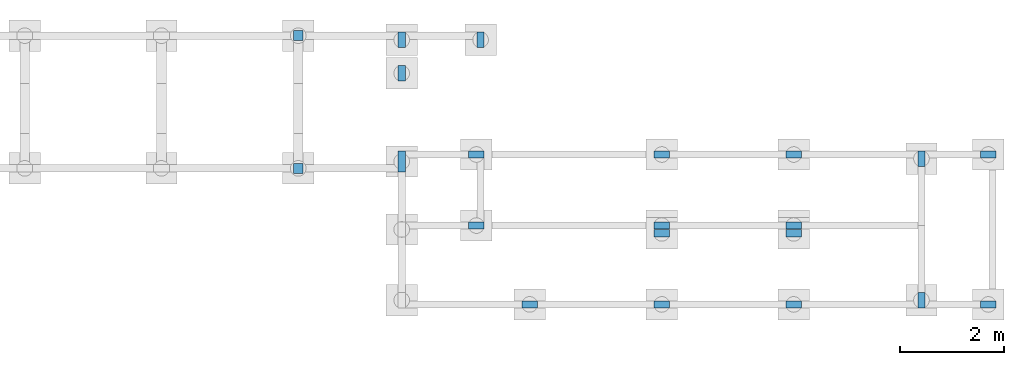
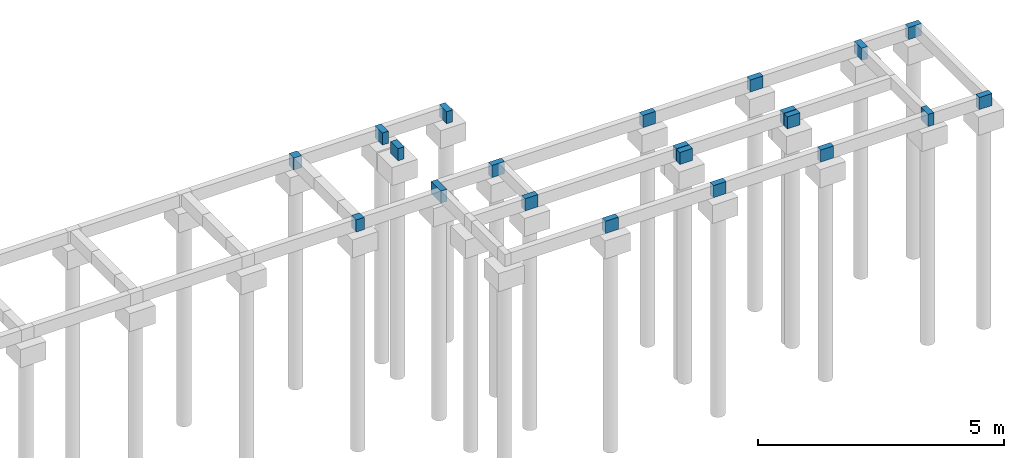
# One storey, part 3 of 6: 21 columns.
"""IFC4 building model written with IfcOpenShell, lengths in centimetres."""

from ifc_helpers import new_model, si_unit, derived_unit, frame, origin_with_axes, origin_2d_with_axis, place, context, project, spatial, rectangle, extrude, material, element, save


model = new_model("IFC4")

# Units and contexts
model_context = context("Model", 3, precision=1e-05, world=origin_with_axes(), identifier="Body")
ifc_project = project(units=[si_unit("LENGTHUNIT", "METRE", prefix="CENTI"), si_unit("VOLUMEUNIT", "CUBIC_METRE"), si_unit("AREAUNIT", "SQUARE_METRE"), si_unit("POWERUNIT", "WATT"), si_unit("LUMINOUSFLUXUNIT", "LUMEN"), si_unit("ELECTRICCURRENTUNIT", "AMPERE"), si_unit("PRESSUREUNIT", "PASCAL", prefix="KILO"), si_unit("MASSUNIT", "GRAM", prefix="KILO"), si_unit("PLANEANGLEUNIT", "RADIAN"), derived_unit("VOLUMETRICFLOWRATEUNIT", [(si_unit("LENGTHUNIT", "METRE"), 3), (si_unit("TIMEUNIT", "SECOND"), -1)])], contexts=[model_context])

# Site, building, storey
site_placement = place(None, origin_with_axes())
site = spatial("IfcSite", under=ifc_project, at=site_placement)
building_placement = place(site_placement, frame((0.0, 0.0, -170.0)))
building = spatial("IfcBuilding", under=site, at=building_placement)
storey_placement = place(building_placement, origin_with_axes())
storey = spatial("IfcBuildingStorey", under=building, at=storey_placement, Name="Baldrame", CompositionType="ELEMENT", Elevation=-170.0)

# Columns
ifc_material = material(Name="Concreto")
for number, where, z_axis, x_axis, name in (
    (1, (5065.12, -129.5, 0.0), (0.0, 0.0, 1.0), (1.0, 0.0, 0.0), "P101"),
    (2, (5318.12, -129.5, 0.0), (0.0, 0.0, 1.0), (1.0, 0.0, 0.0), "P102"),
    (3, (5570.62, -129.5, 0.0), (0.0, 0.0, 1.0), (1.0, 0.0, 0.0), "P103"),
):
    element("IfcColumn", number, at=place(storey_placement, frame(where, z_axis=z_axis, x_axis=x_axis)), inside=storey, material=ifc_material, Name=name, context=model_context, shape_type="SolidModel", body=[
        extrude(rectangle(XDim=14.0, YDim=30.0, at=origin_2d_with_axis()), frame((0.0, 0.0, -30.0), z_axis=(0.0, 0.0, 1.0), x_axis=(0.0, -1.0, 0.0)), (0.0, 0.0, 1.0), 30.0),
    ])
column_1_placement = place(storey_placement, frame((5815.12, -121.5, 0.0), z_axis=(0.0, 0.0, 1.0), x_axis=(1.0, 0.0, 0.0)))
element("IfcColumn", 4, at=column_1_placement, inside=storey, material=ifc_material, Name="P104", context=model_context, shape_type="SolidModel", body=[
    extrude(rectangle(XDim=14.0, YDim=30.0, at=origin_2d_with_axis()), frame((0.0, 0.0, -30.0), z_axis=(0.0, 0.0, 1.0), x_axis=(-1.0, 0.0, 0.0)), (0.0, 0.0, 1.0), 30.0),
])
column_2_placement = place(storey_placement, frame((5943.12, -129.5, 0.0), z_axis=(0.0, 0.0, 1.0), x_axis=(1.0, 0.0, 0.0)))
element("IfcColumn", 5, at=column_2_placement, inside=storey, material=ifc_material, Name="P105", context=model_context, shape_type="SolidModel", body=[
    extrude(rectangle(XDim=14.0, YDim=30.0, at=origin_2d_with_axis()), frame((0.0, 0.0, -30.0), z_axis=(0.0, 0.0, 1.0), x_axis=(0.0, -1.0, 0.0)), (0.0, 0.0, 1.0), 30.0),
])
column_3_placement = place(storey_placement, frame((4622.12, 385.0, 0.0), z_axis=(0.0, 0.0, 1.0), x_axis=(1.0, 0.0, 0.0)))
element("IfcColumn", 6, at=column_3_placement, inside=storey, material=ifc_material, Name="P21", context=model_context, shape_type="SolidModel", body=[
    extrude(rectangle(XDim=19.0, YDim=19.0, at=origin_2d_with_axis()), frame((0.0, 0.0, -30.0), z_axis=(0.0, 0.0, 1.0), x_axis=(0.0, -1.0, 0.0)), (0.0, 0.0, 1.0), 30.0),
])
column_4_placement = place(storey_placement, frame((4820.12, 377.0, 0.0), z_axis=(0.0, 0.0, 1.0), x_axis=(1.0, 0.0, 0.0)))
element("IfcColumn", 7, at=column_4_placement, inside=storey, material=ifc_material, Name="P22", context=model_context, shape_type="SolidModel", body=[
    extrude(rectangle(XDim=14.0, YDim=30.0, at=origin_2d_with_axis()), frame((0.0, 0.0, -30.0), z_axis=(0.0, 0.0, 1.0), x_axis=(1.0, 0.0, 0.0)), (0.0, 0.0, 1.0), 30.0),
])
column_5_placement = place(storey_placement, frame((4971.12, 377.0, 0.0), z_axis=(0.0, 0.0, 1.0), x_axis=(1.0, 0.0, 0.0)))
element("IfcColumn", 8, at=column_5_placement, inside=storey, material=ifc_material, Name="P23", context=model_context, shape_type="SolidModel", body=[
    extrude(rectangle(XDim=14.0, YDim=30.0, at=origin_2d_with_axis()), frame((0.0, 0.0, -30.0), z_axis=(0.0, 0.0, 1.0), x_axis=(-1.0, 0.0, 0.0)), (0.0, 0.0, 1.0), 30.0),
])
column_6_placement = place(storey_placement, frame((4820.12, 313.0, 0.0), z_axis=(0.0, 0.0, 1.0), x_axis=(1.0, 0.0, 0.0)))
element("IfcColumn", 9, at=column_6_placement, inside=storey, material=ifc_material, Name="P38", context=model_context, shape_type="SolidModel", body=[
    extrude(rectangle(XDim=14.0, YDim=30.0, at=origin_2d_with_axis()), frame((0.0, 0.0, -30.0), z_axis=(0.0, 0.0, 1.0), x_axis=(1.0, 0.0, 0.0)), (0.0, 0.0, 1.0), 30.0),
])
column_7_placement = place(storey_placement, frame((4622.12, 131.0, 0.0), z_axis=(0.0, 0.0, 1.0), x_axis=(1.0, 0.0, 0.0)))
element("IfcColumn", 10, at=column_7_placement, inside=storey, material=ifc_material, Name="P71", context=model_context, shape_type="SolidModel", body=[
    extrude(rectangle(XDim=19.0, YDim=19.0, at=origin_2d_with_axis()), frame((0.0, 0.0, -30.0), z_axis=(0.0, 0.0, 1.0), x_axis=(0.0, -1.0, 0.0)), (0.0, 0.0, 1.0), 30.0),
])
column_8_placement = place(storey_placement, frame((4820.12, 144.0, 0.0), z_axis=(0.0, 0.0, 1.0), x_axis=(1.0, 0.0, 0.0)))
element("IfcColumn", 11, at=column_8_placement, inside=storey, material=ifc_material, Name="P72", context=model_context, shape_type="SolidModel", body=[
    extrude(rectangle(XDim=14.0, YDim=40.0, at=origin_2d_with_axis()), frame((0.0, 0.0, -30.0), z_axis=(0.0, 0.0, 1.0), x_axis=(1.0, 0.0, 0.0)), (0.0, 0.0, 1.0), 30.0),
])
for number, where, z_axis, x_axis, name in (
    (12, (4963.12, 157.5, 0.0), (0.0, 0.0, 1.0), (1.0, 0.0, 0.0), "P73"),
    (13, (5318.12, 157.5, 0.0), (0.0, 0.0, 1.0), (1.0, 0.0, 0.0), "P74"),
    (14, (5570.62, 157.5, 0.0), (0.0, 0.0, 1.0), (1.0, 0.0, 0.0), "P75"),
):
    element("IfcColumn", number, at=place(storey_placement, frame(where, z_axis=z_axis, x_axis=x_axis)), inside=storey, material=ifc_material, Name=name, context=model_context, shape_type="SolidModel", body=[
        extrude(rectangle(XDim=14.0, YDim=30.0, at=origin_2d_with_axis()), frame((0.0, 0.0, -30.0), z_axis=(0.0, 0.0, 1.0), x_axis=(0.0, -1.0, 0.0)), (0.0, 0.0, 1.0), 30.0),
    ])
column_9_placement = place(storey_placement, frame((5815.12, 149.5, 0.0), z_axis=(0.0, 0.0, 1.0), x_axis=(1.0, 0.0, 0.0)))
element("IfcColumn", 15, at=column_9_placement, inside=storey, material=ifc_material, Name="P76", context=model_context, shape_type="SolidModel", body=[
    extrude(rectangle(XDim=14.0, YDim=30.0, at=origin_2d_with_axis()), frame((0.0, 0.0, -30.0), z_axis=(0.0, 0.0, 1.0), x_axis=(1.0, 0.0, 0.0)), (0.0, 0.0, 1.0), 30.0),
])
for number, where, z_axis, x_axis, name in (
    (16, (5943.12, 157.5, 0.0), (0.0, 0.0, 1.0), (1.0, 0.0, 0.0), "P77"),
    (17, (4963.12, 21.5, 0.0), (0.0, 0.0, 1.0), (1.0, 0.0, 0.0), "P88"),
    (18, (5318.12, 21.5, 0.0), (0.0, 0.0, 1.0), (1.0, 0.0, 0.0), "P89"),
    (19, (5318.12, 6.5, 0.0), (0.0, 0.0, 1.0), (1.0, 0.0, 0.0), "P90"),
    (20, (5570.62, 21.5, 0.0), (0.0, 0.0, 1.0), (1.0, 0.0, 0.0), "P91"),
    (21, (5570.62, 6.5, 0.0), (0.0, 0.0, 1.0), (1.0, 0.0, 0.0), "P92"),
):
    element("IfcColumn", number, at=place(storey_placement, frame(where, z_axis=z_axis, x_axis=x_axis)), inside=storey, material=ifc_material, Name=name, context=model_context, shape_type="SolidModel", body=[
        extrude(rectangle(XDim=14.0, YDim=30.0, at=origin_2d_with_axis()), frame((0.0, 0.0, -30.0), z_axis=(0.0, 0.0, 1.0), x_axis=(0.0, -1.0, 0.0)), (0.0, 0.0, 1.0), 30.0),
    ])

save(model, "model.ifc")
